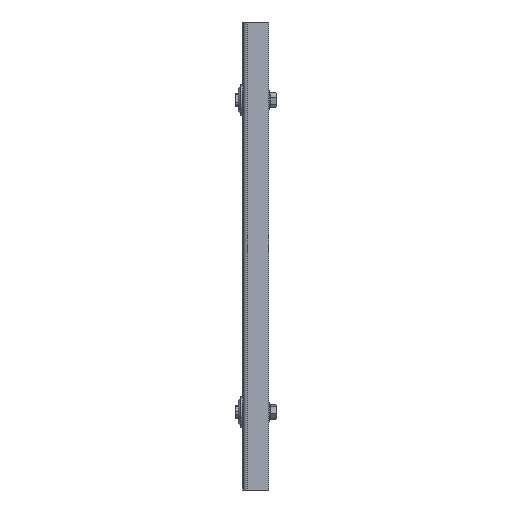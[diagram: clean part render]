
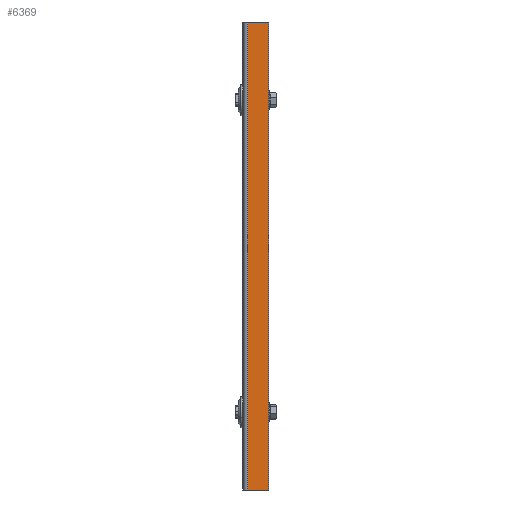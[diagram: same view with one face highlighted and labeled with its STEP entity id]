
A CAD part, left-side view. The second image highlights one B-rep face of the part: STEP entity #6369.
In plain terms, the highlighted planar face has unit normal (-1, 0, 0).
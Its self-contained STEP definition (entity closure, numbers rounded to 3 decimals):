
#116 = CARTESIAN_POINT ( 'NONE',  ( -1.5, 0., 0. ) ) ;
#323 = EDGE_LOOP ( 'NONE', ( #6113, #1357, #2217, #4599 ) ) ;
#567 = CARTESIAN_POINT ( 'NONE',  ( -1.5, 13.5, 300. ) ) ;
#605 = LINE ( 'NONE', #4961, #1793 ) ;
#1002 = LINE ( 'NONE', #567, #6187 ) ;
#1050 = EDGE_CURVE ( 'NONE', #3447, #5451, #1002, .T. ) ;
#1357 = ORIENTED_EDGE ( 'NONE', *, *, #2488, .F. ) ;
#1599 = EDGE_CURVE ( 'NONE', #3182, #5451, #2648, .T. ) ;
#1639 = VECTOR ( 'NONE', #3110, 1000. ) ;
#1789 = AXIS2_PLACEMENT_3D ( 'NONE', #2400, #2886, #6411 ) ;
#1793 = VECTOR ( 'NONE', #5946, 1000. ) ;
#1892 = FACE_OUTER_BOUND ( 'NONE', #323, .T. ) ;
#1898 = PLANE ( 'NONE',  #1789 ) ;
#2050 = EDGE_CURVE ( 'NONE', #6420, #3447, #605, .T. ) ;
#2217 = ORIENTED_EDGE ( 'NONE', *, *, #2050, .T. ) ;
#2300 = CARTESIAN_POINT ( 'NONE',  ( -1.5, 0., 300. ) ) ;
#2400 = CARTESIAN_POINT ( 'NONE',  ( -1.5, 0., 300. ) ) ;
#2441 = CARTESIAN_POINT ( 'NONE',  ( -1.5, 0., 300. ) ) ;
#2488 = EDGE_CURVE ( 'NONE', #6420, #3182, #4939, .T. ) ;
#2562 = VECTOR ( 'NONE', #5304, 1000. ) ;
#2648 = LINE ( 'NONE', #116, #1639 ) ;
#2886 = DIRECTION ( 'NONE',  ( -1., 0., 0. ) ) ;
#3064 = CARTESIAN_POINT ( 'NONE',  ( -1.5, 13.5, 300. ) ) ;
#3110 = DIRECTION ( 'NONE',  ( 0., 1., 0. ) ) ;
#3182 = VERTEX_POINT ( 'NONE', #5336 ) ;
#3447 = VERTEX_POINT ( 'NONE', #3064 ) ;
#3990 = DIRECTION ( 'NONE',  ( 0., 0., -1. ) ) ;
#4180 = CARTESIAN_POINT ( 'NONE',  ( -1.5, 13.5, 0. ) ) ;
#4599 = ORIENTED_EDGE ( 'NONE', *, *, #1050, .T. ) ;
#4939 = LINE ( 'NONE', #2300, #2562 ) ;
#4961 = CARTESIAN_POINT ( 'NONE',  ( -1.5, 0., 300. ) ) ;
#5304 = DIRECTION ( 'NONE',  ( 0., 0., -1. ) ) ;
#5336 = CARTESIAN_POINT ( 'NONE',  ( -1.5, 0., 0. ) ) ;
#5451 = VERTEX_POINT ( 'NONE', #4180 ) ;
#5946 = DIRECTION ( 'NONE',  ( 0., 1., 0. ) ) ;
#6113 = ORIENTED_EDGE ( 'NONE', *, *, #1599, .F. ) ;
#6187 = VECTOR ( 'NONE', #3990, 1000. ) ;
#6369 = ADVANCED_FACE ( 'NONE', ( #1892 ), #1898, .T. ) ;
#6411 = DIRECTION ( 'NONE',  ( 0., 0., 1. ) ) ;
#6420 = VERTEX_POINT ( 'NONE', #2441 ) ;
